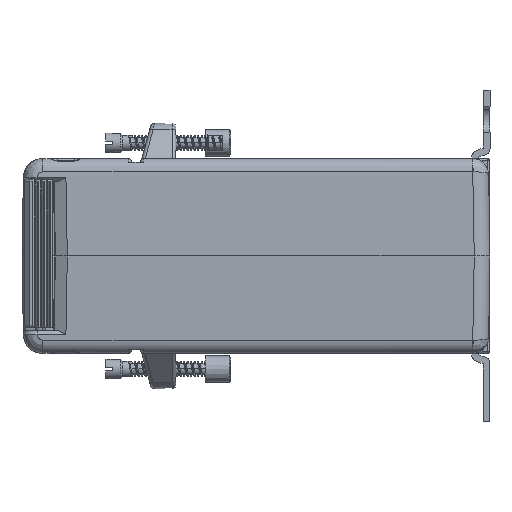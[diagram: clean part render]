
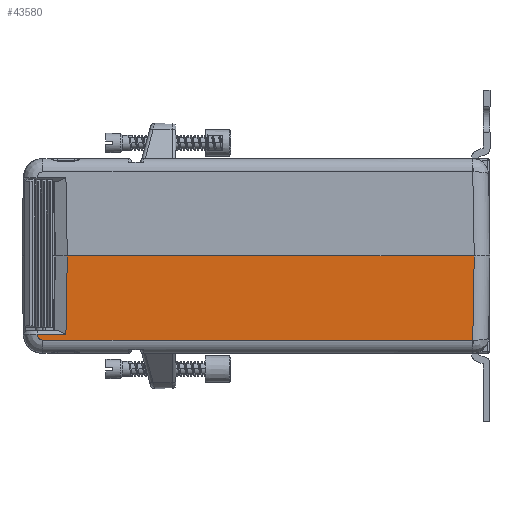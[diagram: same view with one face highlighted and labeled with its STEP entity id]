
A CAD part, left-side view. The second image highlights one B-rep face of the part: STEP entity #43580.
In plain terms, the highlighted planar face has unit normal (-1, 0, -0.018).
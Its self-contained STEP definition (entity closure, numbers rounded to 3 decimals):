
#903=PLANE('',#46277);
#2357=(
BOUNDED_CURVE()
B_SPLINE_CURVE(3,(#79521,#79522,#79523,#79524,#79525,#79526,#79527,#79528,
#79529,#79530),.UNSPECIFIED.,.F.,.F.)
B_SPLINE_CURVE_WITH_KNOTS((4,2,2,2,4),(1.588,1.977,
2.365,2.753,3.142),.UNSPECIFIED.)
CURVE()
GEOMETRIC_REPRESENTATION_ITEM()
RATIONAL_B_SPLINE_CURVE((1.,1.,1.,1.,1.,1.,1.,1.,1.,1.))
REPRESENTATION_ITEM('')
);
#2801=FACE_OUTER_BOUND('',#5208,.T.);
#5208=EDGE_LOOP('',(#30020,#30021,#30022,#30023,#30024,#30025,#30026));
#10039=LINE('',#76655,#13806);
#10259=LINE('',#79052,#14026);
#10302=LINE('',#79519,#14069);
#10303=LINE('',#79520,#14070);
#10304=LINE('',#79532,#14071);
#10305=LINE('',#79533,#14072);
#13806=VECTOR('',#50293,1000.);
#14026=VECTOR('',#50653,1000.);
#14069=VECTOR('',#50768,1000.);
#14070=VECTOR('',#50769,1000.);
#14071=VECTOR('',#50770,1000.);
#14072=VECTOR('',#50771,1000.);
#18034=VERTEX_POINT('',#76653);
#18035=VERTEX_POINT('',#76654);
#18376=VERTEX_POINT('',#79049);
#18377=VERTEX_POINT('',#79051);
#18445=VERTEX_POINT('',#79517);
#18446=VERTEX_POINT('',#79518);
#18447=VERTEX_POINT('',#79531);
#22504=EDGE_CURVE('',#18034,#18035,#10039,.T.);
#22866=EDGE_CURVE('',#18377,#18376,#10259,.T.);
#22955=EDGE_CURVE('',#18445,#18446,#10302,.T.);
#22956=EDGE_CURVE('',#18446,#18034,#10303,.T.);
#22957=EDGE_CURVE('',#18035,#18377,#2357,.T.);
#22958=EDGE_CURVE('',#18376,#18447,#10304,.T.);
#22959=EDGE_CURVE('',#18445,#18447,#10305,.T.);
#30020=ORIENTED_EDGE('',*,*,#22955,.T.);
#30021=ORIENTED_EDGE('',*,*,#22956,.T.);
#30022=ORIENTED_EDGE('',*,*,#22504,.T.);
#30023=ORIENTED_EDGE('',*,*,#22957,.T.);
#30024=ORIENTED_EDGE('',*,*,#22866,.T.);
#30025=ORIENTED_EDGE('',*,*,#22958,.T.);
#30026=ORIENTED_EDGE('',*,*,#22959,.F.);
#43580=ADVANCED_FACE('',(#2801),#903,.T.);
#46277=AXIS2_PLACEMENT_3D('',#79516,#50766,#50767);
#50293=DIRECTION('',(0.017,-0.017,-1.));
#50653=DIRECTION('',(0.,-1.,0.));
#50766=DIRECTION('center_axis',(-1.,0.,
-0.017));
#50767=DIRECTION('ref_axis',(-0.017,0.,1.));
#50768=DIRECTION('',(0.017,0.017,-1.));
#50769=DIRECTION('',(0.,1.,0.));
#50770=DIRECTION('',(-0.017,-0.017,1.));
#50771=DIRECTION('',(0.,-1.,0.));
#76653=CARTESIAN_POINT('',(-89.65,57.651,-20.05));
#76654=CARTESIAN_POINT('',(-89.649,57.65,-20.087));
#76655=CARTESIAN_POINT('',(-89.65,57.651,-20.026));
#79049=CARTESIAN_POINT('',(-89.624,-54.124,-21.561));
#79051=CARTESIAN_POINT('',(-89.624,56.15,-21.561));
#79052=CARTESIAN_POINT('',(-89.624,-58.064,-21.561));
#79516=CARTESIAN_POINT('Origin',(-90.,-53.942,0.));
#79517=CARTESIAN_POINT('',(-90.,49.885,0.));
#79518=CARTESIAN_POINT('',(-89.65,50.235,-20.05));
#79519=CARTESIAN_POINT('',(-90.032,49.853,1.811));
#79520=CARTESIAN_POINT('',(-89.65,57.666,-20.05));
#79521=CARTESIAN_POINT('Ctrl Pts',(-89.649,57.65,-20.087));
#79522=CARTESIAN_POINT('Ctrl Pts',(-89.646,57.647,-20.281));
#79523=CARTESIAN_POINT('Ctrl Pts',(-89.643,57.605,-20.475));
#79524=CARTESIAN_POINT('Ctrl Pts',(-89.636,57.452,-20.832));
#79525=CARTESIAN_POINT('Ctrl Pts',(-89.634,57.34,-20.995));
#79526=CARTESIAN_POINT('Ctrl Pts',(-89.629,57.063,-21.267));
#79527=CARTESIAN_POINT('Ctrl Pts',(-89.627,56.898,-21.376));
#79528=CARTESIAN_POINT('Ctrl Pts',(-89.624,56.538,-21.523));
#79529=CARTESIAN_POINT('Ctrl Pts',(-89.624,56.344,-21.561));
#79530=CARTESIAN_POINT('Ctrl Pts',(-89.624,56.15,-21.561));
#79531=CARTESIAN_POINT('',(-90.,-54.501,0.));
#79532=CARTESIAN_POINT('',(-90.001,-54.502,0.07));
#79533=CARTESIAN_POINT('',(-90.,-53.942,0.));
